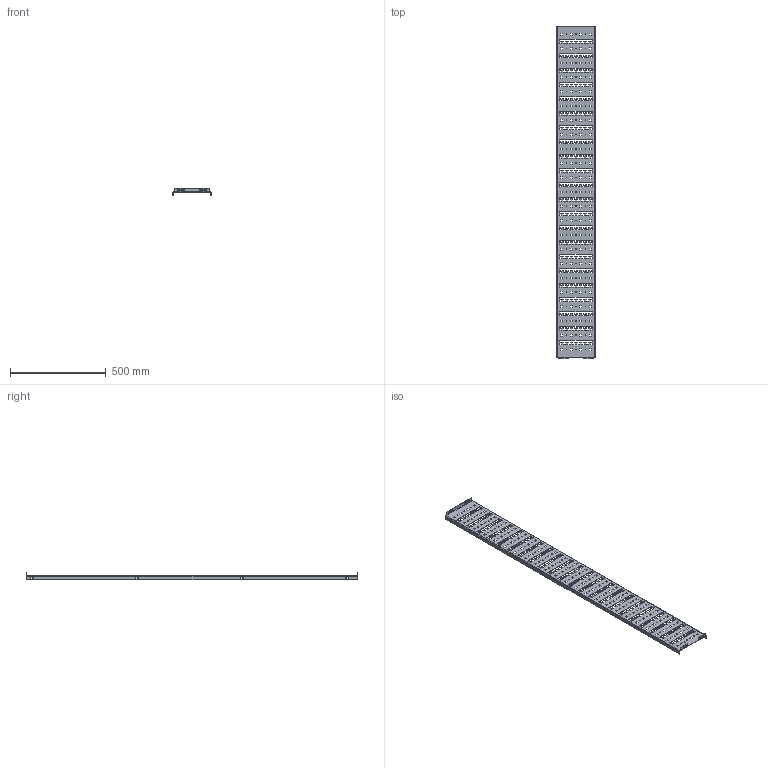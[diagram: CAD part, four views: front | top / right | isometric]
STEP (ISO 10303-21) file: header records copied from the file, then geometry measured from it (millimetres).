
FILE_DESCRIPTION (( 'STEP AP214' ), '1' );
FILE_NAME ('CR 180.20 Êàáåëüíàÿ ïàíåëü.STEP', '2023-11-13T07:47:35', ( '' ), ( '' ), 'SwSTEP 2.0', 'SolidWorks 2022', '' );
FILE_SCHEMA (( 'AUTOMOTIVE_DESIGN' ));
Length unit declared in the file: millimetre
Products named in the file (1): CR 180.20 Кабельная панель
Bounding box: 200 x 1736.6 x 38 mm (x, y, z)
Volume: 670322.4 mm3; surface area: 716039.4 mm2
Topology: 1 solids, 1 shells, 2572 faces, 7698 edges, 5128 vertices
Faces by surface type: plane 1740, cylinder 832
Entity records: 87204 total; most frequent: CARTESIAN_POINT 15399, ORIENTED_EDGE 15396, DIRECTION 14508, EDGE_CURVE 7698, LINE 6034, VECTOR 6034, VERTEX_POINT 5128, AXIS2_PLACEMENT_3D 4237
